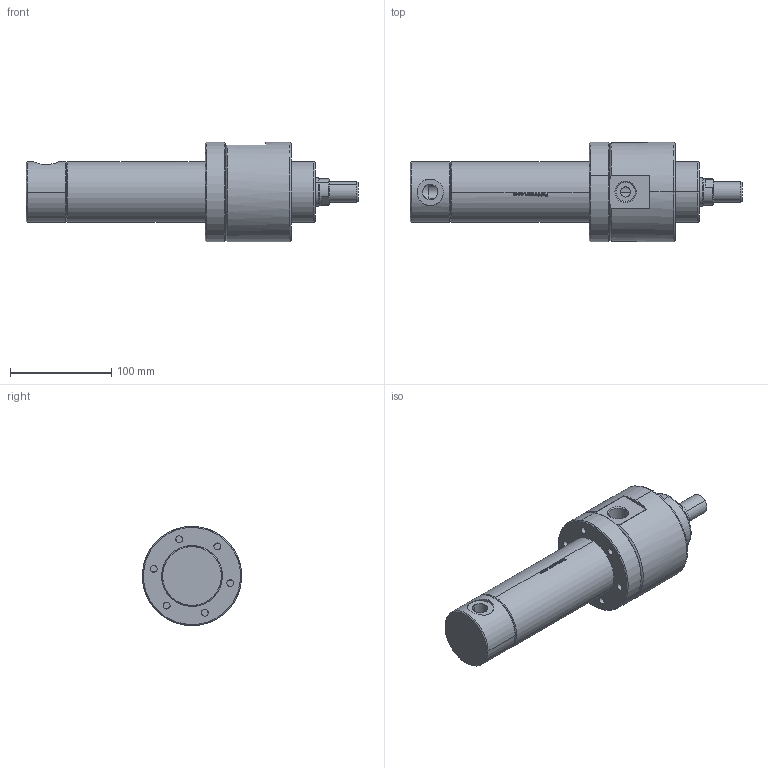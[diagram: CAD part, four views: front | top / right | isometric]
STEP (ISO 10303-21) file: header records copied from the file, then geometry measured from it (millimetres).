
FILE_DESCRIPTION (( 'STEP AP214' ), '1' );
FILE_NAME ('KHCC_50_28_100_WEB.STEP', '2020-12-15T11:40:33', ( '' ), ( '' ), 'SwSTEP 2.0', 'SolidWorks 2021', '' );
FILE_SCHEMA (( 'AUTOMOTIVE_DESIGN' ));
Length unit declared in the file: millimetre
Products named in the file (9): 28_K_MIL_WEB; 50_28_烰_KAPAK; KHCC_50_28_100_WEB; K32-28X38X6; K06-28X38_2X5_3X7; 50_28_gerdirme_flans; 50_H.BORU_WEB; TYAK_50_60
Assembly tree (8 placements, depth 3):
  KHCC_50_28_100_WEB
    50_28_烰_KAPAK
      50_28_烰_KAPAK
      K06-28X38_2X5_3X7
      K32-28X38X6
      50_28_gerdirme_flans
    50_H.BORU_WEB
    28_K_MIL_WEB
    TYAK_50_60
Bounding box: 328 x 98 x 98 mm (x, y, z)
Volume: 832771.9 mm3; surface area: 171210.6 mm2
Topology: 7 solids, 7 shells, 468 faces, 1110 edges, 690 vertices
Faces by surface type: bspline 165, plane 120, cylinder 113, cone 66, torus 4
Entity records: 20644 total; most frequent: CARTESIAN_POINT 8588, ORIENTED_EDGE 2220, DIRECTION 1674, EDGE_CURVE 1110, VERTEX_POINT 690, AXIS2_PLACEMENT_3D 621, EDGE_LOOP 540, FACE_OUTER_BOUND 468
